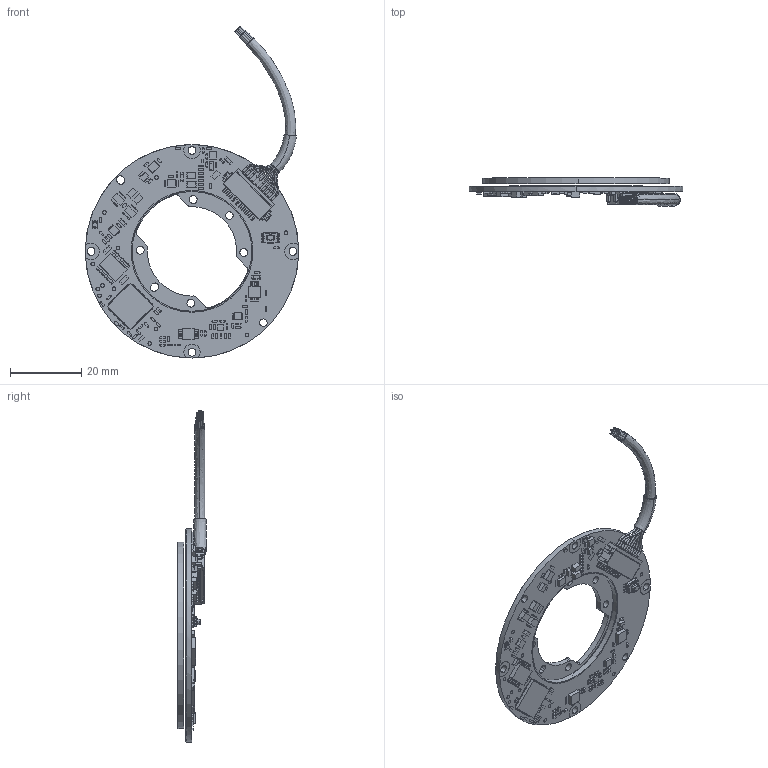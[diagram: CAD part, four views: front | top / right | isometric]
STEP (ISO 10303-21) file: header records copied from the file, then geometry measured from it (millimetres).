
FILE_DESCRIPTION (( 'STEP AP214' ), '1' );
FILE_NAME ('VLX-60-QR.STEP', '2025-03-23T13:54:51', ( '' ), ( '' ), 'SwSTEP 2.0', 'SolidWorks 2022', '' );
FILE_SCHEMA (( 'AUTOMOTIVE_DESIGN' ));
Length unit declared in the file: millimetre
Products named in the file (7): SW-00003; DF13-10S-1.25C; DF13-10P-1.25H; PB-00453; VLX-60-QR; PB-00452; VLX-60-QR Cable
Assembly tree (6 placements, depth 2):
  VLX-60-QR
    PB-00452
    PB-00453
    DF13-10P-1.25H
    DF13-10S-1.25C
    VLX-60-QR Cable
    SW-00003
Bounding box: 59.7 x 7.88 x 92.92 mm (x, y, z)
Volume: 6094.4 mm3; surface area: 10275.9 mm2
Topology: 102 solids, 102 shells, 4586 faces, 11745 edges, 7658 vertices
Faces by surface type: plane 3125, cylinder 1391, bspline 55, cone 15
Entity records: 186132 total; most frequent: CARTESIAN_POINT 29551, DIRECTION 23647, ORIENTED_EDGE 23490, EDGE_CURVE 11745, LINE 8703, VECTOR 8703, VERTEX_POINT 7658, AXIS2_PLACEMENT_3D 7472
